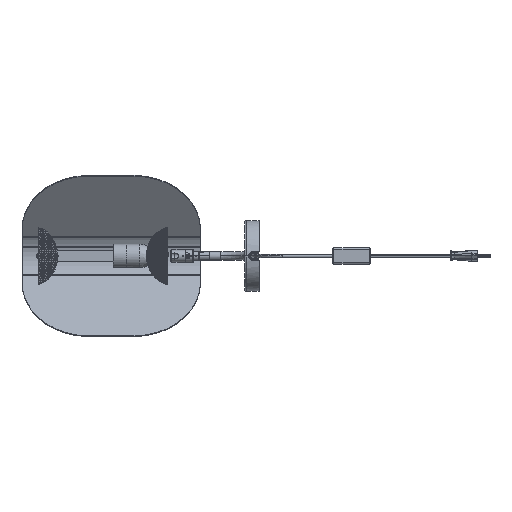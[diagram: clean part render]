
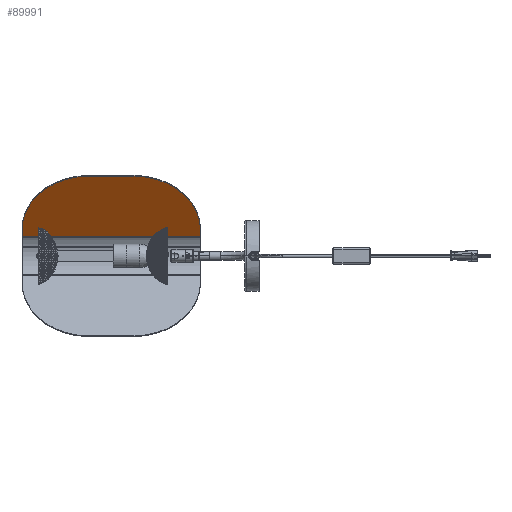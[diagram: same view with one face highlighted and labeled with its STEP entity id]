
A CAD part, front view. The second image highlights one B-rep face of the part: STEP entity #89991.
In plain terms, the highlighted planar face has unit normal (0, -0.803, -0.596).
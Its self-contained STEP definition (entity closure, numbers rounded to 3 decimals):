
#2982 = EDGE_LOOP ( 'NONE', ( #9270, #52367, #150543, #9671, #93836, #231939 ) ) ;
#3694 = DIRECTION ( 'NONE',  ( 1., 0., 0. ) ) ;
#6786 = CARTESIAN_POINT ( 'NONE',  ( -81.7, 565.812, 28.746 ) ) ;
#9270 = ORIENTED_EDGE ( 'NONE', *, *, #147586, .T. ) ;
#9671 = ORIENTED_EDGE ( 'NONE', *, *, #108989, .F. ) ;
#14995 = CARTESIAN_POINT ( 'NONE',  ( -184.935, 495.214, 123.808 ) ) ;
#15389 = CARTESIAN_POINT ( 'NONE',  ( -358.7, 556.765, 40.929 ) ) ;
#23821 = LINE ( 'NONE', #6786, #40951 ) ;
#29826 = VECTOR ( 'NONE', #177829, 1000. ) ;
#31405 = VECTOR ( 'NONE', #225049, 1000. ) ;
#40951 = VECTOR ( 'NONE', #84531, 1000. ) ;
#41892 = AXIS2_PLACEMENT_3D ( 'NONE', #95545, #226733, #134352 ) ;
#42684 = CARTESIAN_POINT ( 'NONE',  ( -358.7, 565.812, 28.746 ) ) ;
#44951 = PLANE ( 'NONE',  #234682 ) ;
#51762 = LINE ( 'NONE', #73616, #194990 ) ;
#52367 = ORIENTED_EDGE ( 'NONE', *, *, #209105, .T. ) ;
#55310 = VERTEX_POINT ( 'NONE', #83559 ) ;
#73616 = CARTESIAN_POINT ( 'NONE',  ( -81.7, 556.765, 40.929 ) ) ;
#83559 = CARTESIAN_POINT ( 'NONE',  ( -358.7, 565.812, 28.746 ) ) ;
#84531 = DIRECTION ( 'NONE',  ( -1., 0., 0. ) ) ;
#89991 = ADVANCED_FACE ( 'NONE', ( #211438 ), #44951, .T. ) ;
#93836 = ORIENTED_EDGE ( 'NONE', *, *, #207126, .F. ) ;
#95019 = LINE ( 'NONE', #42684, #31405 ) ;
#95545 = CARTESIAN_POINT ( 'NONE',  ( -255.465, 556.765, 40.929 ) ) ;
#108989 = EDGE_CURVE ( 'NONE', #55310, #176562, #95019, .T. ) ;
#116465 = DIRECTION ( 'NONE',  ( 0., -0.803, -0.596 ) ) ;
#122837 = CARTESIAN_POINT ( 'NONE',  ( -81.7, 565.812, 28.746 ) ) ;
#129666 = VERTEX_POINT ( 'NONE', #122837 ) ;
#134352 = DIRECTION ( 'NONE',  ( 0., -0.596, 0.803 ) ) ;
#135450 = EDGE_CURVE ( 'NONE', #138318, #129666, #51762, .T. ) ;
#135878 = CARTESIAN_POINT ( 'NONE',  ( -184.935, 495.214, 123.808 ) ) ;
#135893 = CARTESIAN_POINT ( 'NONE',  ( -184.935, 556.765, 40.929 ) ) ;
#138310 = DIRECTION ( 'NONE',  ( 1., 0., 0. ) ) ;
#138318 = VERTEX_POINT ( 'NONE', #205752 ) ;
#146231 = EDGE_CURVE ( 'NONE', #214006, #176562, #169888, .T. ) ;
#147586 = EDGE_CURVE ( 'NONE', #138318, #164372, #163265, .T. ) ;
#150543 = ORIENTED_EDGE ( 'NONE', *, *, #146231, .T. ) ;
#159620 = LINE ( 'NONE', #14995, #29826 ) ;
#163265 = CIRCLE ( 'NONE', #232997, 103.235 ) ;
#164372 = VERTEX_POINT ( 'NONE', #135878 ) ;
#169888 = CIRCLE ( 'NONE', #41892, 103.235 ) ;
#172560 = DIRECTION ( 'NONE',  ( 0., -0.803, -0.596 ) ) ;
#176562 = VERTEX_POINT ( 'NONE', #15389 ) ;
#177829 = DIRECTION ( 'NONE',  ( -1., 0., 0. ) ) ;
#181830 = CARTESIAN_POINT ( 'NONE',  ( -255.465, 495.214, 123.808 ) ) ;
#194990 = VECTOR ( 'NONE', #203576, 1000. ) ;
#203576 = DIRECTION ( 'NONE',  ( 0., 0.596, -0.803 ) ) ;
#205752 = CARTESIAN_POINT ( 'NONE',  ( -81.7, 556.765, 40.929 ) ) ;
#207126 = EDGE_CURVE ( 'NONE', #129666, #55310, #23821, .T. ) ;
#209105 = EDGE_CURVE ( 'NONE', #164372, #214006, #159620, .T. ) ;
#211438 = FACE_OUTER_BOUND ( 'NONE', #2982, .T. ) ;
#214006 = VERTEX_POINT ( 'NONE', #181830 ) ;
#225049 = DIRECTION ( 'NONE',  ( 0., -0.596, 0.803 ) ) ;
#226105 = CARTESIAN_POINT ( 'NONE',  ( -358.7, 495.214, 123.808 ) ) ;
#226733 = DIRECTION ( 'NONE',  ( 0., -0.803, -0.596 ) ) ;
#231939 = ORIENTED_EDGE ( 'NONE', *, *, #135450, .F. ) ;
#232997 = AXIS2_PLACEMENT_3D ( 'NONE', #135893, #116465, #138310 ) ;
#234682 = AXIS2_PLACEMENT_3D ( 'NONE', #226105, #172560, #3694 ) ;
